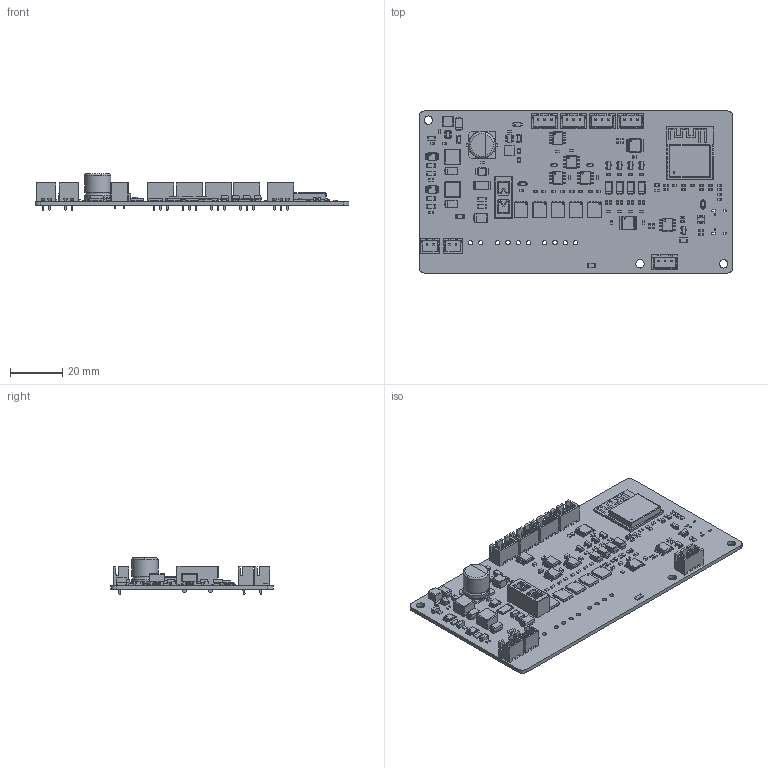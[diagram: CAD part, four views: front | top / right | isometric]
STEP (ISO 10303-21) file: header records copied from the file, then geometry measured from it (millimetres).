
FILE_DESCRIPTION(('KiCad electronic assembly'),'2;1');
FILE_NAME('AP_UNO.step','2026-10-11T06:00:04',('Pcbnew'),('Kicad'), 'Open CASCADE STEP processor 7.6','KiCad to STEP converter','Unknown' );
FILE_SCHEMA(('AUTOMOTIVE_DESIGN { 1 0 10303 214 1 1 1 1 }'));
Length unit declared in the file: millimetre
Products named in the file (29): AP_UNO 1; R_0603_1608Metric; L_Changjiang_FNR6045S; TSSOP-16_4.4x5mm_P0.65mm; C_0603_1608Metric; C_1206_3216Metric; D_SMA; SOT-23; C_0805_2012Metric; R_2512_6332Metric; D_SOD-323; JST_XH_B3B-XH-A_1x03_P2.50mm_Vertical; R_1206_3216Metric; L_Changjiang_FNR4030S; ESP32-C3-WROOM-02; TDSON-8-1; SOIC-8_3.9x4.9mm_P1.27mm; D_SOD-123; Fuse_1206_3216Metric; D_SMB; LED_0603_1608Metric; JST_XH_B2B-XH-A_1x02_P2.50mm_Vertical; VSSOP-10_3x3mm_P0.5mm; CP_Elec_10x10.5; TSOT-23-6; SOT-23-6; Fuseholder_Blade_Mini_Keystone_3568; MSOP-8-1EP_3x3mm_P0.65mm_EP1.5x1.8mm; AP_UNO_PCB
Assembly tree (129 placements, depth 2):
  AP_UNO 1
    R_0603_1608Metric  x44
    L_Changjiang_FNR6045S  x2
    TSSOP-16_4.4x5mm_P0.65mm  x2
    C_0603_1608Metric  x16
    C_1206_3216Metric  x7
    D_SMA  x7
    SOT-23  x5
    C_0805_2012Metric  x3
    R_2512_6332Metric
    D_SOD-323  x2
    JST_XH_B3B-XH-A_1x03_P2.50mm_Vertical  x5
    R_1206_3216Metric  x3
    L_Changjiang_FNR4030S  x2
    ESP32-C3-WROOM-02
    TDSON-8-1  x5
    SOIC-8_3.9x4.9mm_P1.27mm  x5
    D_SOD-123  x3
    Fuse_1206_3216Metric  x2
    D_SMB
    LED_0603_1608Metric  x2
    JST_XH_B2B-XH-A_1x02_P2.50mm_Vertical  x2
    VSSOP-10_3x3mm_P0.5mm
    CP_Elec_10x10.5
    TSOT-23-6
    SOT-23-6  x2
    Fuseholder_Blade_Mini_Keystone_3568
    MSOP-8-1EP_3x3mm_P0.65mm_EP1.5x1.8mm  x2
    AP_UNO_PCB
Bounding box: 120 x 62 x 13.9 mm (x, y, z)
Volume: 15884.4 mm3; surface area: 24827.5 mm2
Topology: 158 solids, 158 shells, 7111 faces, 18378 edges, 11687 vertices
Faces by surface type: plane 4779, cylinder 1520, bspline 783, sphere 24, torus 4, revolution 1
Full cylindrical faces by diameter (mm): 0.25 x1, 0.3 x4, 0.5 x8, 0.6 x5, 0.65 x2, 0.95 x15, 1 x4, 1.7 x10, 1.78 x4, 3.2 x3, 10 x2
Entity records: 73768 total; most frequent: CARTESIAN_POINT 14199, ORIENTED_EDGE 12524, DIRECTION 11468, EDGE_CURVE 6260, LINE 4941, VECTOR 4941, VERTEX_POINT 3986, AXIS2_PLACEMENT_3D 3263
